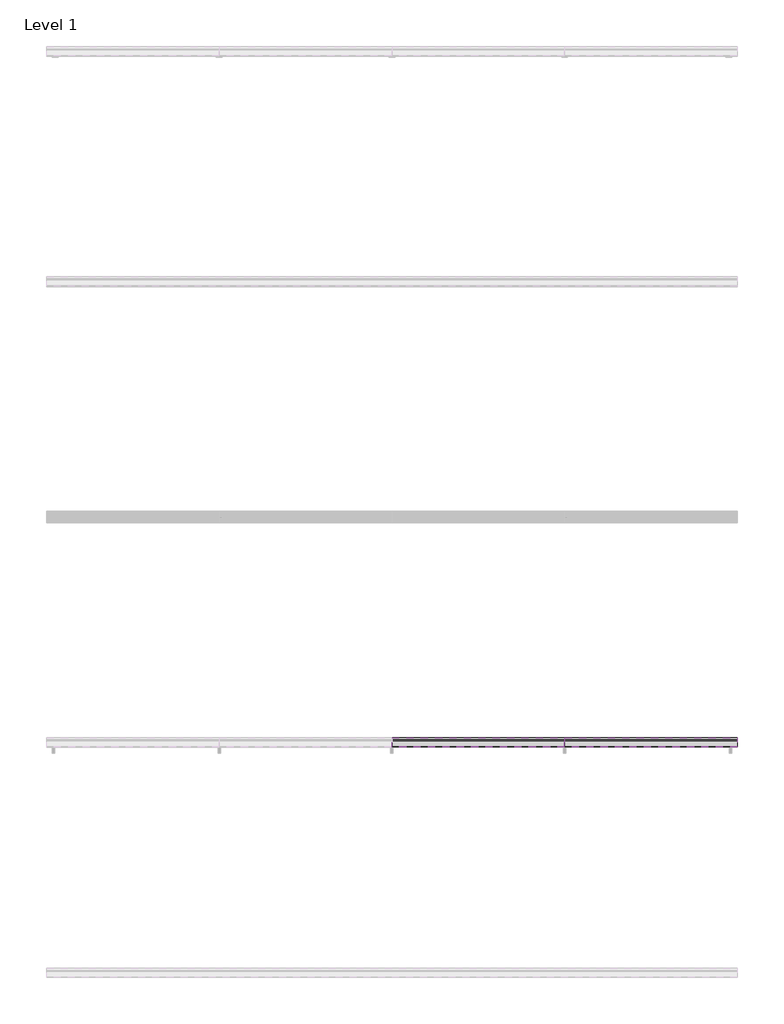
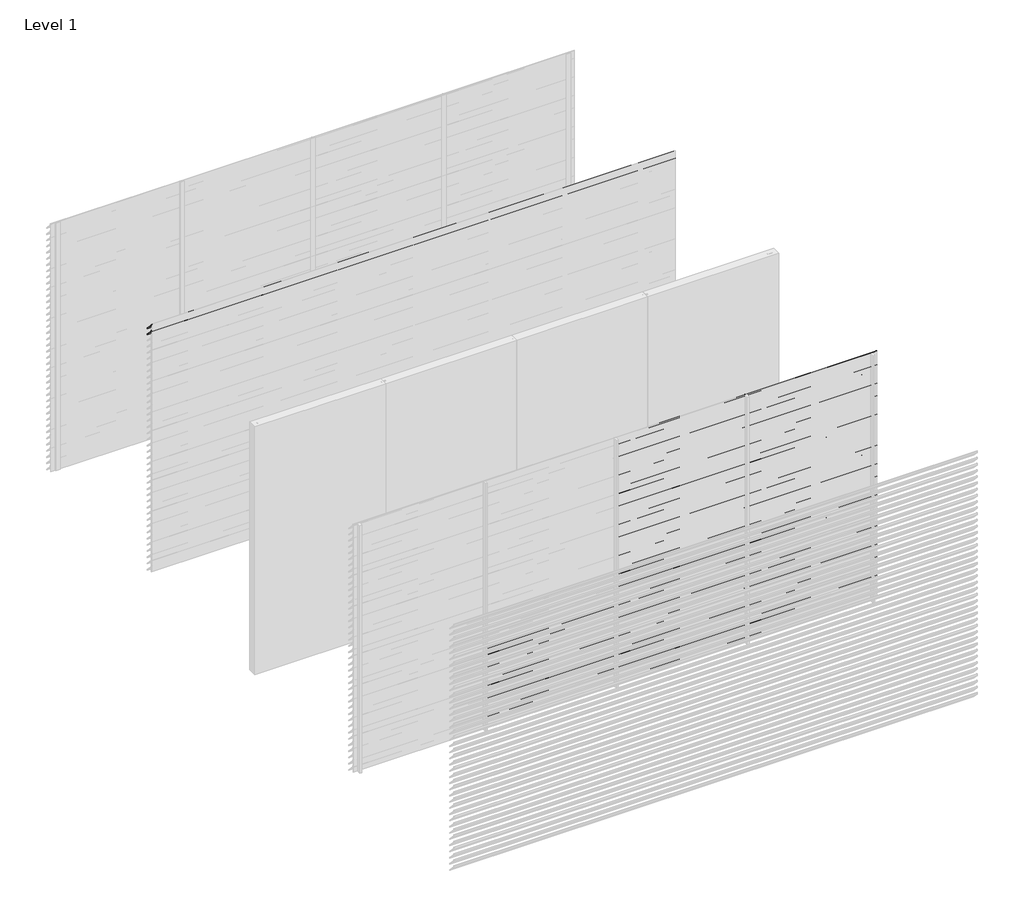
# One storey, part 7 of 9: 95 proxies.
"""IFC4 building model written with IfcOpenShell, lengths in millimetres."""

from ifc_helpers import new_model, si_unit, frame, origin, place, context, project, spatial, polyline, outline, extrude, element, save

model = new_model("IFC4")

# Units and contexts
model_context = context("Model", 3, world=origin())
ifc_project = project(units=[si_unit("LENGTHUNIT", "METRE", prefix="MILLI")], contexts=[model_context])

# Site, building, storey
site = spatial("IfcSite", under=ifc_project)
building = spatial("IfcBuilding", under=site)
storey = spatial("IfcBuildingStorey", under=building, Name="Level 1", Elevation=0.0)

# Proxies
placement = place(None, origin())
element("IfcBuildingElementProxy", 1, Name="Wall Sweeps", at=placement, inside=storey, context=model_context, shape_type="SweptSolid", body=[
    extrude(outline(polyline([(-1995.0, 3000.0), (-1995.0, 2987.7713645), (-1917.0, 2907.0), (-1917.0, 2898.0), (-1997.0, 2980.8424251), (-1997.0, 3000.0), (-1995.0, 3000.0)])), frame((0.0, 0.0, 0.0), z_axis=(1.0, 0.0, 0.0), x_axis=(0.0, 1.0, 0.0)), (0.0, 0.0, 1.0), 6000.0),
])
element("IfcBuildingElementProxy", 2, Name="Wall Sweeps", at=placement, inside=storey, context=model_context, shape_type="SweptSolid", body=[
    extrude(outline(polyline([(-1995.0, 2925.0), (-1995.0, 2912.7713645), (-1917.0, 2832.0), (-1917.0, 2823.0), (-1997.0, 2905.8424251), (-1997.0, 2925.0), (-1995.0, 2925.0)])), frame((0.0, 0.0, 0.0), z_axis=(1.0, 0.0, 0.0), x_axis=(0.0, 1.0, 0.0)), (0.0, 0.0, 1.0), 6000.0),
])
element("IfcBuildingElementProxy", 3, Name="Wall Sweeps", at=placement, inside=storey, context=model_context, shape_type="SweptSolid", body=[
    extrude(outline(polyline([(-5995.0, 975.0), (-5995.0, 962.7713645), (-5917.0, 882.0), (-5917.0, 873.0), (-5997.0, 955.8424251), (-5997.0, 975.0), (-5995.0, 975.0)])), frame((1500.0, 0.0, 0.0), z_axis=(1.0, 0.0, 0.0), x_axis=(0.0, 1.0, 0.0)), (0.0, 0.0, 1.0), 1500.0),
])
element("IfcBuildingElementProxy", 4, Name="Wall Sweeps", at=placement, inside=storey, context=model_context, shape_type="SweptSolid", body=[
    extrude(outline(polyline([(-5995.0, 900.0), (-5995.0, 887.7713645), (-5917.0, 807.0), (-5917.0, 798.0), (-5997.0, 880.8424251), (-5997.0, 900.0), (-5995.0, 900.0)])), frame((1500.0, 0.0, 0.0), z_axis=(1.0, 0.0, 0.0), x_axis=(0.0, 1.0, 0.0)), (0.0, 0.0, 1.0), 1500.0),
])
element("IfcBuildingElementProxy", 5, Name="Wall Sweeps", at=placement, inside=storey, context=model_context, shape_type="SweptSolid", body=[
    extrude(outline(polyline([(-5995.0, 825.0), (-5995.0, 812.7713645), (-5917.0, 732.0), (-5917.0, 723.0), (-5997.0, 805.8424251), (-5997.0, 825.0), (-5995.0, 825.0)])), frame((1500.0, 0.0, 0.0), z_axis=(1.0, 0.0, 0.0), x_axis=(0.0, 1.0, 0.0)), (0.0, 0.0, 1.0), 1500.0),
])
element("IfcBuildingElementProxy", 6, Name="Wall Sweeps", at=placement, inside=storey, context=model_context, shape_type="SweptSolid", body=[
    extrude(outline(polyline([(-5995.0, 750.0), (-5995.0, 737.7713645), (-5917.0, 657.0), (-5917.0, 648.0), (-5997.0, 730.8424251), (-5997.0, 750.0), (-5995.0, 750.0)])), frame((1500.0, 0.0, 0.0), z_axis=(1.0, 0.0, 0.0), x_axis=(0.0, 1.0, 0.0)), (0.0, 0.0, 1.0), 1500.0),
])
element("IfcBuildingElementProxy", 7, Name="Wall Sweeps", at=placement, inside=storey, context=model_context, shape_type="SweptSolid", body=[
    extrude(outline(polyline([(-5995.0, 675.0), (-5995.0, 662.7713645), (-5917.0, 582.0), (-5917.0, 573.0), (-5997.0, 655.8424251), (-5997.0, 675.0), (-5995.0, 675.0)])), frame((1500.0, 0.0, 0.0), z_axis=(1.0, 0.0, 0.0), x_axis=(0.0, 1.0, 0.0)), (0.0, 0.0, 1.0), 1500.0),
])
element("IfcBuildingElementProxy", 8, Name="Wall Sweeps", at=placement, inside=storey, context=model_context, shape_type="SweptSolid", body=[
    extrude(outline(polyline([(-5995.0, 600.0), (-5995.0, 587.7713645), (-5917.0, 507.0), (-5917.0, 498.0), (-5997.0, 580.8424251), (-5997.0, 600.0), (-5995.0, 600.0)])), frame((1500.0, 0.0, 0.0), z_axis=(1.0, 0.0, 0.0), x_axis=(0.0, 1.0, 0.0)), (0.0, 0.0, 1.0), 1500.0),
])
element("IfcBuildingElementProxy", 9, Name="Wall Sweeps", at=placement, inside=storey, context=model_context, shape_type="SweptSolid", body=[
    extrude(outline(polyline([(-5995.0, 525.0), (-5995.0, 512.7713645), (-5917.0, 432.0), (-5917.0, 423.0), (-5997.0, 505.8424251), (-5997.0, 525.0), (-5995.0, 525.0)])), frame((1500.0, 0.0, 0.0), z_axis=(1.0, 0.0, 0.0), x_axis=(0.0, 1.0, 0.0)), (0.0, 0.0, 1.0), 1500.0),
])
element("IfcBuildingElementProxy", 10, Name="Wall Sweeps", at=placement, inside=storey, context=model_context, shape_type="SweptSolid", body=[
    extrude(outline(polyline([(-5995.0, 450.0), (-5995.0, 437.7713645), (-5917.0, 357.0), (-5917.0, 348.0), (-5997.0, 430.8424251), (-5997.0, 450.0), (-5995.0, 450.0)])), frame((1500.0, 0.0, 0.0), z_axis=(1.0, 0.0, 0.0), x_axis=(0.0, 1.0, 0.0)), (0.0, 0.0, 1.0), 1500.0),
])
element("IfcBuildingElementProxy", 11, Name="Wall Sweeps", at=placement, inside=storey, context=model_context, shape_type="SweptSolid", body=[
    extrude(outline(polyline([(-5995.0, 375.0), (-5995.0, 362.7713645), (-5917.0, 282.0), (-5917.0, 273.0), (-5997.0, 355.8424251), (-5997.0, 375.0), (-5995.0, 375.0)])), frame((1500.0, 0.0, 0.0), z_axis=(1.0, 0.0, 0.0), x_axis=(0.0, 1.0, 0.0)), (0.0, 0.0, 1.0), 1500.0),
])
element("IfcBuildingElementProxy", 12, Name="Wall Sweeps", at=placement, inside=storey, context=model_context, shape_type="SweptSolid", body=[
    extrude(outline(polyline([(-5995.0, 300.0), (-5995.0, 287.7713645), (-5917.0, 207.0), (-5917.0, 198.0), (-5997.0, 280.8424251), (-5997.0, 300.0), (-5995.0, 300.0)])), frame((1500.0, 0.0, 0.0), z_axis=(1.0, 0.0, 0.0), x_axis=(0.0, 1.0, 0.0)), (0.0, 0.0, 1.0), 1500.0),
])
element("IfcBuildingElementProxy", 13, Name="Wall Sweeps", at=placement, inside=storey, context=model_context, shape_type="SweptSolid", body=[
    extrude(outline(polyline([(-5995.0, 225.0), (-5995.0, 212.7713645), (-5917.0, 132.0), (-5917.0, 123.0), (-5997.0, 205.8424251), (-5997.0, 225.0), (-5995.0, 225.0)])), frame((1500.0, 0.0, 0.0), z_axis=(1.0, 0.0, 0.0), x_axis=(0.0, 1.0, 0.0)), (0.0, 0.0, 1.0), 1500.0),
])
element("IfcBuildingElementProxy", 14, Name="Wall Sweeps", at=placement, inside=storey, context=model_context, shape_type="SweptSolid", body=[
    extrude(outline(polyline([(-5995.0, 150.0), (-5995.0, 137.7713645), (-5917.0, 57.0), (-5917.0, 48.0), (-5997.0, 130.8424251), (-5997.0, 150.0), (-5995.0, 150.0)])), frame((1500.0, 0.0, 0.0), z_axis=(1.0, 0.0, 0.0), x_axis=(0.0, 1.0, 0.0)), (0.0, 0.0, 1.0), 1500.0),
])
element("IfcBuildingElementProxy", 15, Name="Wall Sweeps", at=placement, inside=storey, context=model_context, shape_type="SweptSolid", body=[
    extrude(outline(polyline([(-5995.0, 75.0), (-5995.0, 62.7713645), (-5917.0, -18.0), (-5917.0, -27.0), (-5997.0, 55.8424251), (-5997.0, 75.0), (-5995.0, 75.0)])), frame((1500.0, 0.0, 0.0), z_axis=(1.0, 0.0, 0.0), x_axis=(0.0, 1.0, 0.0)), (0.0, 0.0, 1.0), 1500.0),
])
element("IfcBuildingElementProxy", 16, Name="Wall Sweeps", at=placement, inside=storey, context=model_context, shape_type="SweptSolid", body=[
    extrude(outline(polyline([(-5995.0, 3000.0), (-5995.0, 2987.7713645), (-5917.0, 2907.0), (-5917.0, 2898.0), (-5997.0, 2980.8424251), (-5997.0, 3000.0), (-5995.0, 3000.0)])), frame((3000.0, 0.0, 0.0), z_axis=(1.0, 0.0, 0.0), x_axis=(0.0, 1.0, 0.0)), (0.0, 0.0, 1.0), 1500.0),
])
element("IfcBuildingElementProxy", 17, Name="Wall Sweeps", at=placement, inside=storey, context=model_context, shape_type="SweptSolid", body=[
    extrude(outline(polyline([(-5995.0, 2925.0), (-5995.0, 2912.7713645), (-5917.0, 2832.0), (-5917.0, 2823.0), (-5997.0, 2905.8424251), (-5997.0, 2925.0), (-5995.0, 2925.0)])), frame((3000.0, 0.0, 0.0), z_axis=(1.0, 0.0, 0.0), x_axis=(0.0, 1.0, 0.0)), (0.0, 0.0, 1.0), 1500.0),
])
element("IfcBuildingElementProxy", 18, Name="Wall Sweeps", at=placement, inside=storey, context=model_context, shape_type="SweptSolid", body=[
    extrude(outline(polyline([(-5995.0, 2850.0), (-5995.0, 2837.7713645), (-5917.0, 2757.0), (-5917.0, 2748.0), (-5997.0, 2830.8424251), (-5997.0, 2850.0), (-5995.0, 2850.0)])), frame((3000.0, 0.0, 0.0), z_axis=(1.0, 0.0, 0.0), x_axis=(0.0, 1.0, 0.0)), (0.0, 0.0, 1.0), 1500.0),
])
element("IfcBuildingElementProxy", 19, Name="Wall Sweeps", at=placement, inside=storey, context=model_context, shape_type="SweptSolid", body=[
    extrude(outline(polyline([(-5995.0, 2775.0), (-5995.0, 2762.7713645), (-5917.0, 2682.0), (-5917.0, 2673.0), (-5997.0, 2755.8424251), (-5997.0, 2775.0), (-5995.0, 2775.0)])), frame((3000.0, 0.0, 0.0), z_axis=(1.0, 0.0, 0.0), x_axis=(0.0, 1.0, 0.0)), (0.0, 0.0, 1.0), 1500.0),
])
element("IfcBuildingElementProxy", 20, Name="Wall Sweeps", at=placement, inside=storey, context=model_context, shape_type="SweptSolid", body=[
    extrude(outline(polyline([(-5995.0, 2700.0), (-5995.0, 2687.7713645), (-5917.0, 2607.0), (-5917.0, 2598.0), (-5997.0, 2680.8424251), (-5997.0, 2700.0), (-5995.0, 2700.0)])), frame((3000.0, 0.0, 0.0), z_axis=(1.0, 0.0, 0.0), x_axis=(0.0, 1.0, 0.0)), (0.0, 0.0, 1.0), 1500.0),
])
element("IfcBuildingElementProxy", 21, Name="Wall Sweeps", at=placement, inside=storey, context=model_context, shape_type="SweptSolid", body=[
    extrude(outline(polyline([(-5995.0, 2625.0), (-5995.0, 2612.7713645), (-5917.0, 2532.0), (-5917.0, 2523.0), (-5997.0, 2605.8424251), (-5997.0, 2625.0), (-5995.0, 2625.0)])), frame((3000.0, 0.0, 0.0), z_axis=(1.0, 0.0, 0.0), x_axis=(0.0, 1.0, 0.0)), (0.0, 0.0, 1.0), 1500.0),
])
element("IfcBuildingElementProxy", 22, Name="Wall Sweeps", at=placement, inside=storey, context=model_context, shape_type="SweptSolid", body=[
    extrude(outline(polyline([(-5995.0, 2550.0), (-5995.0, 2537.7713645), (-5917.0, 2457.0), (-5917.0, 2448.0), (-5997.0, 2530.8424251), (-5997.0, 2550.0), (-5995.0, 2550.0)])), frame((3000.0, 0.0, 0.0), z_axis=(1.0, 0.0, 0.0), x_axis=(0.0, 1.0, 0.0)), (0.0, 0.0, 1.0), 1500.0),
])
element("IfcBuildingElementProxy", 23, Name="Wall Sweeps", at=placement, inside=storey, context=model_context, shape_type="SweptSolid", body=[
    extrude(outline(polyline([(-5995.0, 2475.0), (-5995.0, 2462.7713645), (-5917.0, 2382.0), (-5917.0, 2373.0), (-5997.0, 2455.8424251), (-5997.0, 2475.0), (-5995.0, 2475.0)])), frame((3000.0, 0.0, 0.0), z_axis=(1.0, 0.0, 0.0), x_axis=(0.0, 1.0, 0.0)), (0.0, 0.0, 1.0), 1500.0),
])
element("IfcBuildingElementProxy", 24, Name="Wall Sweeps", at=placement, inside=storey, context=model_context, shape_type="SweptSolid", body=[
    extrude(outline(polyline([(-5995.0, 2400.0), (-5995.0, 2387.7713645), (-5917.0, 2307.0), (-5917.0, 2298.0), (-5997.0, 2380.8424251), (-5997.0, 2400.0), (-5995.0, 2400.0)])), frame((3000.0, 0.0, 0.0), z_axis=(1.0, 0.0, 0.0), x_axis=(0.0, 1.0, 0.0)), (0.0, 0.0, 1.0), 1500.0),
])
element("IfcBuildingElementProxy", 25, Name="Wall Sweeps", at=placement, inside=storey, context=model_context, shape_type="SweptSolid", body=[
    extrude(outline(polyline([(-5995.0, 2325.0), (-5995.0, 2312.7713645), (-5917.0, 2232.0), (-5917.0, 2223.0), (-5997.0, 2305.8424251), (-5997.0, 2325.0), (-5995.0, 2325.0)])), frame((3000.0, 0.0, 0.0), z_axis=(1.0, 0.0, 0.0), x_axis=(0.0, 1.0, 0.0)), (0.0, 0.0, 1.0), 1500.0),
])
element("IfcBuildingElementProxy", 26, Name="Wall Sweeps", at=placement, inside=storey, context=model_context, shape_type="SweptSolid", body=[
    extrude(outline(polyline([(-5995.0, 2250.0), (-5995.0, 2237.7713645), (-5917.0, 2157.0), (-5917.0, 2148.0), (-5997.0, 2230.8424251), (-5997.0, 2250.0), (-5995.0, 2250.0)])), frame((3000.0, 0.0, 0.0), z_axis=(1.0, 0.0, 0.0), x_axis=(0.0, 1.0, 0.0)), (0.0, 0.0, 1.0), 1500.0),
])
element("IfcBuildingElementProxy", 27, Name="Wall Sweeps", at=placement, inside=storey, context=model_context, shape_type="SweptSolid", body=[
    extrude(outline(polyline([(-5995.0, 2175.0), (-5995.0, 2162.7713645), (-5917.0, 2082.0), (-5917.0, 2073.0), (-5997.0, 2155.8424251), (-5997.0, 2175.0), (-5995.0, 2175.0)])), frame((3000.0, 0.0, 0.0), z_axis=(1.0, 0.0, 0.0), x_axis=(0.0, 1.0, 0.0)), (0.0, 0.0, 1.0), 1500.0),
])
element("IfcBuildingElementProxy", 28, Name="Wall Sweeps", at=placement, inside=storey, context=model_context, shape_type="SweptSolid", body=[
    extrude(outline(polyline([(-5995.0, 2100.0), (-5995.0, 2087.7713645), (-5917.0, 2007.0), (-5917.0, 1998.0), (-5997.0, 2080.8424251), (-5997.0, 2100.0), (-5995.0, 2100.0)])), frame((3000.0, 0.0, 0.0), z_axis=(1.0, 0.0, 0.0), x_axis=(0.0, 1.0, 0.0)), (0.0, 0.0, 1.0), 1500.0),
])
element("IfcBuildingElementProxy", 29, Name="Wall Sweeps", at=placement, inside=storey, context=model_context, shape_type="SweptSolid", body=[
    extrude(outline(polyline([(-5995.0, 2025.0), (-5995.0, 2012.7713645), (-5917.0, 1932.0), (-5917.0, 1923.0), (-5997.0, 2005.8424251), (-5997.0, 2025.0), (-5995.0, 2025.0)])), frame((3000.0, 0.0, 0.0), z_axis=(1.0, 0.0, 0.0), x_axis=(0.0, 1.0, 0.0)), (0.0, 0.0, 1.0), 1500.0),
])
element("IfcBuildingElementProxy", 30, Name="Wall Sweeps", at=placement, inside=storey, context=model_context, shape_type="SweptSolid", body=[
    extrude(outline(polyline([(-5995.0, 1950.0), (-5995.0, 1937.7713645), (-5917.0, 1857.0), (-5917.0, 1848.0), (-5997.0, 1930.8424251), (-5997.0, 1950.0), (-5995.0, 1950.0)])), frame((3000.0, 0.0, 0.0), z_axis=(1.0, 0.0, 0.0), x_axis=(0.0, 1.0, 0.0)), (0.0, 0.0, 1.0), 1500.0),
])
element("IfcBuildingElementProxy", 31, Name="Wall Sweeps", at=placement, inside=storey, context=model_context, shape_type="SweptSolid", body=[
    extrude(outline(polyline([(-5995.0, 1875.0), (-5995.0, 1862.7713645), (-5917.0, 1782.0), (-5917.0, 1773.0), (-5997.0, 1855.8424251), (-5997.0, 1875.0), (-5995.0, 1875.0)])), frame((3000.0, 0.0, 0.0), z_axis=(1.0, 0.0, 0.0), x_axis=(0.0, 1.0, 0.0)), (0.0, 0.0, 1.0), 1500.0),
])
element("IfcBuildingElementProxy", 32, Name="Wall Sweeps", at=placement, inside=storey, context=model_context, shape_type="SweptSolid", body=[
    extrude(outline(polyline([(-5995.0, 1800.0), (-5995.0, 1787.7713645), (-5917.0, 1707.0), (-5917.0, 1698.0), (-5997.0, 1780.8424251), (-5997.0, 1800.0), (-5995.0, 1800.0)])), frame((3000.0, 0.0, 0.0), z_axis=(1.0, 0.0, 0.0), x_axis=(0.0, 1.0, 0.0)), (0.0, 0.0, 1.0), 1500.0),
])
element("IfcBuildingElementProxy", 33, Name="Wall Sweeps", at=placement, inside=storey, context=model_context, shape_type="SweptSolid", body=[
    extrude(outline(polyline([(-5995.0, 1725.0), (-5995.0, 1712.7713645), (-5917.0, 1632.0), (-5917.0, 1623.0), (-5997.0, 1705.8424251), (-5997.0, 1725.0), (-5995.0, 1725.0)])), frame((3000.0, 0.0, 0.0), z_axis=(1.0, 0.0, 0.0), x_axis=(0.0, 1.0, 0.0)), (0.0, 0.0, 1.0), 1500.0),
])
element("IfcBuildingElementProxy", 34, Name="Wall Sweeps", at=placement, inside=storey, context=model_context, shape_type="SweptSolid", body=[
    extrude(outline(polyline([(-5995.0, 1650.0), (-5995.0, 1637.7713645), (-5917.0, 1557.0), (-5917.0, 1548.0), (-5997.0, 1630.8424251), (-5997.0, 1650.0), (-5995.0, 1650.0)])), frame((3000.0, 0.0, 0.0), z_axis=(1.0, 0.0, 0.0), x_axis=(0.0, 1.0, 0.0)), (0.0, 0.0, 1.0), 1500.0),
])
element("IfcBuildingElementProxy", 35, Name="Wall Sweeps", at=placement, inside=storey, context=model_context, shape_type="SweptSolid", body=[
    extrude(outline(polyline([(-5995.0, 1575.0), (-5995.0, 1562.7713645), (-5917.0, 1482.0), (-5917.0, 1473.0), (-5997.0, 1555.8424251), (-5997.0, 1575.0), (-5995.0, 1575.0)])), frame((3000.0, 0.0, 0.0), z_axis=(1.0, 0.0, 0.0), x_axis=(0.0, 1.0, 0.0)), (0.0, 0.0, 1.0), 1500.0),
])
element("IfcBuildingElementProxy", 36, Name="Wall Sweeps", at=placement, inside=storey, context=model_context, shape_type="SweptSolid", body=[
    extrude(outline(polyline([(-5995.0, 1500.0), (-5995.0, 1487.7713645), (-5917.0, 1407.0), (-5917.0, 1398.0), (-5997.0, 1480.8424251), (-5997.0, 1500.0), (-5995.0, 1500.0)])), frame((3000.0, 0.0, 0.0), z_axis=(1.0, 0.0, 0.0), x_axis=(0.0, 1.0, 0.0)), (0.0, 0.0, 1.0), 1500.0),
])
element("IfcBuildingElementProxy", 37, Name="Wall Sweeps", at=placement, inside=storey, context=model_context, shape_type="SweptSolid", body=[
    extrude(outline(polyline([(-5995.0, 1425.0), (-5995.0, 1412.7713645), (-5917.0, 1332.0), (-5917.0, 1323.0), (-5997.0, 1405.8424251), (-5997.0, 1425.0), (-5995.0, 1425.0)])), frame((3000.0, 0.0, 0.0), z_axis=(1.0, 0.0, 0.0), x_axis=(0.0, 1.0, 0.0)), (0.0, 0.0, 1.0), 1500.0),
])
element("IfcBuildingElementProxy", 38, Name="Wall Sweeps", at=placement, inside=storey, context=model_context, shape_type="SweptSolid", body=[
    extrude(outline(polyline([(-5995.0, 1350.0), (-5995.0, 1337.7713645), (-5917.0, 1257.0), (-5917.0, 1248.0), (-5997.0, 1330.8424251), (-5997.0, 1350.0), (-5995.0, 1350.0)])), frame((3000.0, 0.0, 0.0), z_axis=(1.0, 0.0, 0.0), x_axis=(0.0, 1.0, 0.0)), (0.0, 0.0, 1.0), 1500.0),
])
element("IfcBuildingElementProxy", 39, Name="Wall Sweeps", at=placement, inside=storey, context=model_context, shape_type="SweptSolid", body=[
    extrude(outline(polyline([(-5995.0, 1275.0), (-5995.0, 1262.7713645), (-5917.0, 1182.0), (-5917.0, 1173.0), (-5997.0, 1255.8424251), (-5997.0, 1275.0), (-5995.0, 1275.0)])), frame((3000.0, 0.0, 0.0), z_axis=(1.0, 0.0, 0.0), x_axis=(0.0, 1.0, 0.0)), (0.0, 0.0, 1.0), 1500.0),
])
element("IfcBuildingElementProxy", 40, Name="Wall Sweeps", at=placement, inside=storey, context=model_context, shape_type="SweptSolid", body=[
    extrude(outline(polyline([(-5995.0, 1200.0), (-5995.0, 1187.7713645), (-5917.0, 1107.0), (-5917.0, 1098.0), (-5997.0, 1180.8424251), (-5997.0, 1200.0), (-5995.0, 1200.0)])), frame((3000.0, 0.0, 0.0), z_axis=(1.0, 0.0, 0.0), x_axis=(0.0, 1.0, 0.0)), (0.0, 0.0, 1.0), 1500.0),
])
element("IfcBuildingElementProxy", 41, Name="Wall Sweeps", at=placement, inside=storey, context=model_context, shape_type="SweptSolid", body=[
    extrude(outline(polyline([(-5995.0, 1125.0), (-5995.0, 1112.7713645), (-5917.0, 1032.0), (-5917.0, 1023.0), (-5997.0, 1105.8424251), (-5997.0, 1125.0), (-5995.0, 1125.0)])), frame((3000.0, 0.0, 0.0), z_axis=(1.0, 0.0, 0.0), x_axis=(0.0, 1.0, 0.0)), (0.0, 0.0, 1.0), 1500.0),
])
element("IfcBuildingElementProxy", 42, Name="Wall Sweeps", at=placement, inside=storey, context=model_context, shape_type="SweptSolid", body=[
    extrude(outline(polyline([(-5995.0, 1050.0), (-5995.0, 1037.7713645), (-5917.0, 957.0), (-5917.0, 948.0), (-5997.0, 1030.8424251), (-5997.0, 1050.0), (-5995.0, 1050.0)])), frame((3000.0, 0.0, 0.0), z_axis=(1.0, 0.0, 0.0), x_axis=(0.0, 1.0, 0.0)), (0.0, 0.0, 1.0), 1500.0),
])
element("IfcBuildingElementProxy", 43, Name="Wall Sweeps", at=placement, inside=storey, context=model_context, shape_type="SweptSolid", body=[
    extrude(outline(polyline([(-5995.0, 975.0), (-5995.0, 962.7713645), (-5917.0, 882.0), (-5917.0, 873.0), (-5997.0, 955.8424251), (-5997.0, 975.0), (-5995.0, 975.0)])), frame((3000.0, 0.0, 0.0), z_axis=(1.0, 0.0, 0.0), x_axis=(0.0, 1.0, 0.0)), (0.0, 0.0, 1.0), 1500.0),
])
element("IfcBuildingElementProxy", 44, Name="Wall Sweeps", at=placement, inside=storey, context=model_context, shape_type="SweptSolid", body=[
    extrude(outline(polyline([(-5995.0, 900.0), (-5995.0, 887.7713645), (-5917.0, 807.0), (-5917.0, 798.0), (-5997.0, 880.8424251), (-5997.0, 900.0), (-5995.0, 900.0)])), frame((3000.0, 0.0, 0.0), z_axis=(1.0, 0.0, 0.0), x_axis=(0.0, 1.0, 0.0)), (0.0, 0.0, 1.0), 1500.0),
])
element("IfcBuildingElementProxy", 45, Name="Wall Sweeps", at=placement, inside=storey, context=model_context, shape_type="SweptSolid", body=[
    extrude(outline(polyline([(-5995.0, 825.0), (-5995.0, 812.7713645), (-5917.0, 732.0), (-5917.0, 723.0), (-5997.0, 805.8424251), (-5997.0, 825.0), (-5995.0, 825.0)])), frame((3000.0, 0.0, 0.0), z_axis=(1.0, 0.0, 0.0), x_axis=(0.0, 1.0, 0.0)), (0.0, 0.0, 1.0), 1500.0),
])
element("IfcBuildingElementProxy", 46, Name="Wall Sweeps", at=placement, inside=storey, context=model_context, shape_type="SweptSolid", body=[
    extrude(outline(polyline([(-5995.0, 750.0), (-5995.0, 737.7713645), (-5917.0, 657.0), (-5917.0, 648.0), (-5997.0, 730.8424251), (-5997.0, 750.0), (-5995.0, 750.0)])), frame((3000.0, 0.0, 0.0), z_axis=(1.0, 0.0, 0.0), x_axis=(0.0, 1.0, 0.0)), (0.0, 0.0, 1.0), 1500.0),
])
element("IfcBuildingElementProxy", 47, Name="Wall Sweeps", at=placement, inside=storey, context=model_context, shape_type="SweptSolid", body=[
    extrude(outline(polyline([(-5995.0, 675.0), (-5995.0, 662.7713645), (-5917.0, 582.0), (-5917.0, 573.0), (-5997.0, 655.8424251), (-5997.0, 675.0), (-5995.0, 675.0)])), frame((3000.0, 0.0, 0.0), z_axis=(1.0, 0.0, 0.0), x_axis=(0.0, 1.0, 0.0)), (0.0, 0.0, 1.0), 1500.0),
])
element("IfcBuildingElementProxy", 48, Name="Wall Sweeps", at=placement, inside=storey, context=model_context, shape_type="SweptSolid", body=[
    extrude(outline(polyline([(-5995.0, 600.0), (-5995.0, 587.7713645), (-5917.0, 507.0), (-5917.0, 498.0), (-5997.0, 580.8424251), (-5997.0, 600.0), (-5995.0, 600.0)])), frame((3000.0, 0.0, 0.0), z_axis=(1.0, 0.0, 0.0), x_axis=(0.0, 1.0, 0.0)), (0.0, 0.0, 1.0), 1500.0),
])
element("IfcBuildingElementProxy", 49, Name="Wall Sweeps", at=placement, inside=storey, context=model_context, shape_type="SweptSolid", body=[
    extrude(outline(polyline([(-5995.0, 525.0), (-5995.0, 512.7713645), (-5917.0, 432.0), (-5917.0, 423.0), (-5997.0, 505.8424251), (-5997.0, 525.0), (-5995.0, 525.0)])), frame((3000.0, 0.0, 0.0), z_axis=(1.0, 0.0, 0.0), x_axis=(0.0, 1.0, 0.0)), (0.0, 0.0, 1.0), 1500.0),
])
element("IfcBuildingElementProxy", 50, Name="Wall Sweeps", at=placement, inside=storey, context=model_context, shape_type="SweptSolid", body=[
    extrude(outline(polyline([(-5995.0, 450.0), (-5995.0, 437.7713645), (-5917.0, 357.0), (-5917.0, 348.0), (-5997.0, 430.8424251), (-5997.0, 450.0), (-5995.0, 450.0)])), frame((3000.0, 0.0, 0.0), z_axis=(1.0, 0.0, 0.0), x_axis=(0.0, 1.0, 0.0)), (0.0, 0.0, 1.0), 1500.0),
])
element("IfcBuildingElementProxy", 51, Name="Wall Sweeps", at=placement, inside=storey, context=model_context, shape_type="SweptSolid", body=[
    extrude(outline(polyline([(-5995.0, 375.0), (-5995.0, 362.7713645), (-5917.0, 282.0), (-5917.0, 273.0), (-5997.0, 355.8424251), (-5997.0, 375.0), (-5995.0, 375.0)])), frame((3000.0, 0.0, 0.0), z_axis=(1.0, 0.0, 0.0), x_axis=(0.0, 1.0, 0.0)), (0.0, 0.0, 1.0), 1500.0),
])
element("IfcBuildingElementProxy", 52, Name="Wall Sweeps", at=placement, inside=storey, context=model_context, shape_type="SweptSolid", body=[
    extrude(outline(polyline([(-5995.0, 300.0), (-5995.0, 287.7713645), (-5917.0, 207.0), (-5917.0, 198.0), (-5997.0, 280.8424251), (-5997.0, 300.0), (-5995.0, 300.0)])), frame((3000.0, 0.0, 0.0), z_axis=(1.0, 0.0, 0.0), x_axis=(0.0, 1.0, 0.0)), (0.0, 0.0, 1.0), 1500.0),
])
element("IfcBuildingElementProxy", 53, Name="Wall Sweeps", at=placement, inside=storey, context=model_context, shape_type="SweptSolid", body=[
    extrude(outline(polyline([(-5995.0, 225.0), (-5995.0, 212.7713645), (-5917.0, 132.0), (-5917.0, 123.0), (-5997.0, 205.8424251), (-5997.0, 225.0), (-5995.0, 225.0)])), frame((3000.0, 0.0, 0.0), z_axis=(1.0, 0.0, 0.0), x_axis=(0.0, 1.0, 0.0)), (0.0, 0.0, 1.0), 1500.0),
])
element("IfcBuildingElementProxy", 54, Name="Wall Sweeps", at=placement, inside=storey, context=model_context, shape_type="SweptSolid", body=[
    extrude(outline(polyline([(-5995.0, 150.0), (-5995.0, 137.7713645), (-5917.0, 57.0), (-5917.0, 48.0), (-5997.0, 130.8424251), (-5997.0, 150.0), (-5995.0, 150.0)])), frame((3000.0, 0.0, 0.0), z_axis=(1.0, 0.0, 0.0), x_axis=(0.0, 1.0, 0.0)), (0.0, 0.0, 1.0), 1500.0),
])
element("IfcBuildingElementProxy", 55, Name="Wall Sweeps", at=placement, inside=storey, context=model_context, shape_type="SweptSolid", body=[
    extrude(outline(polyline([(-5995.0, 75.0), (-5995.0, 62.7713645), (-5917.0, -18.0), (-5917.0, -27.0), (-5997.0, 55.8424251), (-5997.0, 75.0), (-5995.0, 75.0)])), frame((3000.0, 0.0, 0.0), z_axis=(1.0, 0.0, 0.0), x_axis=(0.0, 1.0, 0.0)), (0.0, 0.0, 1.0), 1500.0),
])
element("IfcBuildingElementProxy", 56, Name="Wall Sweeps", at=placement, inside=storey, context=model_context, shape_type="SweptSolid", body=[
    extrude(outline(polyline([(-5995.0, 3000.0), (-5995.0, 2987.7713645), (-5917.0, 2907.0), (-5917.0, 2898.0), (-5997.0, 2980.8424251), (-5997.0, 3000.0), (-5995.0, 3000.0)])), frame((4500.0, 0.0, 0.0), z_axis=(1.0, 0.0, 0.0), x_axis=(0.0, 1.0, 0.0)), (0.0, 0.0, 1.0), 1500.0),
])
element("IfcBuildingElementProxy", 57, Name="Wall Sweeps", at=placement, inside=storey, context=model_context, shape_type="SweptSolid", body=[
    extrude(outline(polyline([(-5995.0, 2925.0), (-5995.0, 2912.7713645), (-5917.0, 2832.0), (-5917.0, 2823.0), (-5997.0, 2905.8424251), (-5997.0, 2925.0), (-5995.0, 2925.0)])), frame((4500.0, 0.0, 0.0), z_axis=(1.0, 0.0, 0.0), x_axis=(0.0, 1.0, 0.0)), (0.0, 0.0, 1.0), 1500.0),
])
element("IfcBuildingElementProxy", 58, Name="Wall Sweeps", at=placement, inside=storey, context=model_context, shape_type="SweptSolid", body=[
    extrude(outline(polyline([(-5995.0, 2850.0), (-5995.0, 2837.7713645), (-5917.0, 2757.0), (-5917.0, 2748.0), (-5997.0, 2830.8424251), (-5997.0, 2850.0), (-5995.0, 2850.0)])), frame((4500.0, 0.0, 0.0), z_axis=(1.0, 0.0, 0.0), x_axis=(0.0, 1.0, 0.0)), (0.0, 0.0, 1.0), 1500.0),
])
element("IfcBuildingElementProxy", 59, Name="Wall Sweeps", at=placement, inside=storey, context=model_context, shape_type="SweptSolid", body=[
    extrude(outline(polyline([(-5995.0, 2775.0), (-5995.0, 2762.7713645), (-5917.0, 2682.0), (-5917.0, 2673.0), (-5997.0, 2755.8424251), (-5997.0, 2775.0), (-5995.0, 2775.0)])), frame((4500.0, 0.0, 0.0), z_axis=(1.0, 0.0, 0.0), x_axis=(0.0, 1.0, 0.0)), (0.0, 0.0, 1.0), 1500.0),
])
element("IfcBuildingElementProxy", 60, Name="Wall Sweeps", at=placement, inside=storey, context=model_context, shape_type="SweptSolid", body=[
    extrude(outline(polyline([(-5995.0, 2700.0), (-5995.0, 2687.7713645), (-5917.0, 2607.0), (-5917.0, 2598.0), (-5997.0, 2680.8424251), (-5997.0, 2700.0), (-5995.0, 2700.0)])), frame((4500.0, 0.0, 0.0), z_axis=(1.0, 0.0, 0.0), x_axis=(0.0, 1.0, 0.0)), (0.0, 0.0, 1.0), 1500.0),
])
element("IfcBuildingElementProxy", 61, Name="Wall Sweeps", at=placement, inside=storey, context=model_context, shape_type="SweptSolid", body=[
    extrude(outline(polyline([(-5995.0, 2625.0), (-5995.0, 2612.7713645), (-5917.0, 2532.0), (-5917.0, 2523.0), (-5997.0, 2605.8424251), (-5997.0, 2625.0), (-5995.0, 2625.0)])), frame((4500.0, 0.0, 0.0), z_axis=(1.0, 0.0, 0.0), x_axis=(0.0, 1.0, 0.0)), (0.0, 0.0, 1.0), 1500.0),
])
element("IfcBuildingElementProxy", 62, Name="Wall Sweeps", at=placement, inside=storey, context=model_context, shape_type="SweptSolid", body=[
    extrude(outline(polyline([(-5995.0, 2550.0), (-5995.0, 2537.7713645), (-5917.0, 2457.0), (-5917.0, 2448.0), (-5997.0, 2530.8424251), (-5997.0, 2550.0), (-5995.0, 2550.0)])), frame((4500.0, 0.0, 0.0), z_axis=(1.0, 0.0, 0.0), x_axis=(0.0, 1.0, 0.0)), (0.0, 0.0, 1.0), 1500.0),
])
element("IfcBuildingElementProxy", 63, Name="Wall Sweeps", at=placement, inside=storey, context=model_context, shape_type="SweptSolid", body=[
    extrude(outline(polyline([(-5995.0, 2475.0), (-5995.0, 2462.7713645), (-5917.0, 2382.0), (-5917.0, 2373.0), (-5997.0, 2455.8424251), (-5997.0, 2475.0), (-5995.0, 2475.0)])), frame((4500.0, 0.0, 0.0), z_axis=(1.0, 0.0, 0.0), x_axis=(0.0, 1.0, 0.0)), (0.0, 0.0, 1.0), 1500.0),
])
element("IfcBuildingElementProxy", 64, Name="Wall Sweeps", at=placement, inside=storey, context=model_context, shape_type="SweptSolid", body=[
    extrude(outline(polyline([(-5995.0, 2400.0), (-5995.0, 2387.7713645), (-5917.0, 2307.0), (-5917.0, 2298.0), (-5997.0, 2380.8424251), (-5997.0, 2400.0), (-5995.0, 2400.0)])), frame((4500.0, 0.0, 0.0), z_axis=(1.0, 0.0, 0.0), x_axis=(0.0, 1.0, 0.0)), (0.0, 0.0, 1.0), 1500.0),
])
element("IfcBuildingElementProxy", 65, Name="Wall Sweeps", at=placement, inside=storey, context=model_context, shape_type="SweptSolid", body=[
    extrude(outline(polyline([(-5995.0, 2325.0), (-5995.0, 2312.7713645), (-5917.0, 2232.0), (-5917.0, 2223.0), (-5997.0, 2305.8424251), (-5997.0, 2325.0), (-5995.0, 2325.0)])), frame((4500.0, 0.0, 0.0), z_axis=(1.0, 0.0, 0.0), x_axis=(0.0, 1.0, 0.0)), (0.0, 0.0, 1.0), 1500.0),
])
element("IfcBuildingElementProxy", 66, Name="Wall Sweeps", at=placement, inside=storey, context=model_context, shape_type="SweptSolid", body=[
    extrude(outline(polyline([(-5995.0, 2250.0), (-5995.0, 2237.7713645), (-5917.0, 2157.0), (-5917.0, 2148.0), (-5997.0, 2230.8424251), (-5997.0, 2250.0), (-5995.0, 2250.0)])), frame((4500.0, 0.0, 0.0), z_axis=(1.0, 0.0, 0.0), x_axis=(0.0, 1.0, 0.0)), (0.0, 0.0, 1.0), 1500.0),
])
element("IfcBuildingElementProxy", 67, Name="Wall Sweeps", at=placement, inside=storey, context=model_context, shape_type="SweptSolid", body=[
    extrude(outline(polyline([(-5995.0, 2175.0), (-5995.0, 2162.7713645), (-5917.0, 2082.0), (-5917.0, 2073.0), (-5997.0, 2155.8424251), (-5997.0, 2175.0), (-5995.0, 2175.0)])), frame((4500.0, 0.0, 0.0), z_axis=(1.0, 0.0, 0.0), x_axis=(0.0, 1.0, 0.0)), (0.0, 0.0, 1.0), 1500.0),
])
element("IfcBuildingElementProxy", 68, Name="Wall Sweeps", at=placement, inside=storey, context=model_context, shape_type="SweptSolid", body=[
    extrude(outline(polyline([(-5995.0, 2100.0), (-5995.0, 2087.7713645), (-5917.0, 2007.0), (-5917.0, 1998.0), (-5997.0, 2080.8424251), (-5997.0, 2100.0), (-5995.0, 2100.0)])), frame((4500.0, 0.0, 0.0), z_axis=(1.0, 0.0, 0.0), x_axis=(0.0, 1.0, 0.0)), (0.0, 0.0, 1.0), 1500.0),
])
element("IfcBuildingElementProxy", 69, Name="Wall Sweeps", at=placement, inside=storey, context=model_context, shape_type="SweptSolid", body=[
    extrude(outline(polyline([(-5995.0, 2025.0), (-5995.0, 2012.7713645), (-5917.0, 1932.0), (-5917.0, 1923.0), (-5997.0, 2005.8424251), (-5997.0, 2025.0), (-5995.0, 2025.0)])), frame((4500.0, 0.0, 0.0), z_axis=(1.0, 0.0, 0.0), x_axis=(0.0, 1.0, 0.0)), (0.0, 0.0, 1.0), 1500.0),
])
element("IfcBuildingElementProxy", 70, Name="Wall Sweeps", at=placement, inside=storey, context=model_context, shape_type="SweptSolid", body=[
    extrude(outline(polyline([(-5995.0, 1950.0), (-5995.0, 1937.7713645), (-5917.0, 1857.0), (-5917.0, 1848.0), (-5997.0, 1930.8424251), (-5997.0, 1950.0), (-5995.0, 1950.0)])), frame((4500.0, 0.0, 0.0), z_axis=(1.0, 0.0, 0.0), x_axis=(0.0, 1.0, 0.0)), (0.0, 0.0, 1.0), 1500.0),
])
element("IfcBuildingElementProxy", 71, Name="Wall Sweeps", at=placement, inside=storey, context=model_context, shape_type="SweptSolid", body=[
    extrude(outline(polyline([(-5995.0, 1875.0), (-5995.0, 1862.7713645), (-5917.0, 1782.0), (-5917.0, 1773.0), (-5997.0, 1855.8424251), (-5997.0, 1875.0), (-5995.0, 1875.0)])), frame((4500.0, 0.0, 0.0), z_axis=(1.0, 0.0, 0.0), x_axis=(0.0, 1.0, 0.0)), (0.0, 0.0, 1.0), 1500.0),
])
element("IfcBuildingElementProxy", 72, Name="Wall Sweeps", at=placement, inside=storey, context=model_context, shape_type="SweptSolid", body=[
    extrude(outline(polyline([(-5995.0, 1800.0), (-5995.0, 1787.7713645), (-5917.0, 1707.0), (-5917.0, 1698.0), (-5997.0, 1780.8424251), (-5997.0, 1800.0), (-5995.0, 1800.0)])), frame((4500.0, 0.0, 0.0), z_axis=(1.0, 0.0, 0.0), x_axis=(0.0, 1.0, 0.0)), (0.0, 0.0, 1.0), 1500.0),
])
element("IfcBuildingElementProxy", 73, Name="Wall Sweeps", at=placement, inside=storey, context=model_context, shape_type="SweptSolid", body=[
    extrude(outline(polyline([(-5995.0, 1725.0), (-5995.0, 1712.7713645), (-5917.0, 1632.0), (-5917.0, 1623.0), (-5997.0, 1705.8424251), (-5997.0, 1725.0), (-5995.0, 1725.0)])), frame((4500.0, 0.0, 0.0), z_axis=(1.0, 0.0, 0.0), x_axis=(0.0, 1.0, 0.0)), (0.0, 0.0, 1.0), 1500.0),
])
element("IfcBuildingElementProxy", 74, Name="Wall Sweeps", at=placement, inside=storey, context=model_context, shape_type="SweptSolid", body=[
    extrude(outline(polyline([(-5995.0, 1650.0), (-5995.0, 1637.7713645), (-5917.0, 1557.0), (-5917.0, 1548.0), (-5997.0, 1630.8424251), (-5997.0, 1650.0), (-5995.0, 1650.0)])), frame((4500.0, 0.0, 0.0), z_axis=(1.0, 0.0, 0.0), x_axis=(0.0, 1.0, 0.0)), (0.0, 0.0, 1.0), 1500.0),
])
element("IfcBuildingElementProxy", 75, Name="Wall Sweeps", at=placement, inside=storey, context=model_context, shape_type="SweptSolid", body=[
    extrude(outline(polyline([(-5995.0, 1575.0), (-5995.0, 1562.7713645), (-5917.0, 1482.0), (-5917.0, 1473.0), (-5997.0, 1555.8424251), (-5997.0, 1575.0), (-5995.0, 1575.0)])), frame((4500.0, 0.0, 0.0), z_axis=(1.0, 0.0, 0.0), x_axis=(0.0, 1.0, 0.0)), (0.0, 0.0, 1.0), 1500.0),
])
element("IfcBuildingElementProxy", 76, Name="Wall Sweeps", at=placement, inside=storey, context=model_context, shape_type="SweptSolid", body=[
    extrude(outline(polyline([(-5995.0, 1500.0), (-5995.0, 1487.7713645), (-5917.0, 1407.0), (-5917.0, 1398.0), (-5997.0, 1480.8424251), (-5997.0, 1500.0), (-5995.0, 1500.0)])), frame((4500.0, 0.0, 0.0), z_axis=(1.0, 0.0, 0.0), x_axis=(0.0, 1.0, 0.0)), (0.0, 0.0, 1.0), 1500.0),
])
element("IfcBuildingElementProxy", 77, Name="Wall Sweeps", at=placement, inside=storey, context=model_context, shape_type="SweptSolid", body=[
    extrude(outline(polyline([(-5995.0, 1425.0), (-5995.0, 1412.7713645), (-5917.0, 1332.0), (-5917.0, 1323.0), (-5997.0, 1405.8424251), (-5997.0, 1425.0), (-5995.0, 1425.0)])), frame((4500.0, 0.0, 0.0), z_axis=(1.0, 0.0, 0.0), x_axis=(0.0, 1.0, 0.0)), (0.0, 0.0, 1.0), 1500.0),
])
element("IfcBuildingElementProxy", 78, Name="Wall Sweeps", at=placement, inside=storey, context=model_context, shape_type="SweptSolid", body=[
    extrude(outline(polyline([(-5995.0, 1350.0), (-5995.0, 1337.7713645), (-5917.0, 1257.0), (-5917.0, 1248.0), (-5997.0, 1330.8424251), (-5997.0, 1350.0), (-5995.0, 1350.0)])), frame((4500.0, 0.0, 0.0), z_axis=(1.0, 0.0, 0.0), x_axis=(0.0, 1.0, 0.0)), (0.0, 0.0, 1.0), 1500.0),
])
element("IfcBuildingElementProxy", 79, Name="Wall Sweeps", at=placement, inside=storey, context=model_context, shape_type="SweptSolid", body=[
    extrude(outline(polyline([(-5995.0, 1275.0), (-5995.0, 1262.7713645), (-5917.0, 1182.0), (-5917.0, 1173.0), (-5997.0, 1255.8424251), (-5997.0, 1275.0), (-5995.0, 1275.0)])), frame((4500.0, 0.0, 0.0), z_axis=(1.0, 0.0, 0.0), x_axis=(0.0, 1.0, 0.0)), (0.0, 0.0, 1.0), 1500.0),
])
element("IfcBuildingElementProxy", 80, Name="Wall Sweeps", at=placement, inside=storey, context=model_context, shape_type="SweptSolid", body=[
    extrude(outline(polyline([(-5995.0, 1200.0), (-5995.0, 1187.7713645), (-5917.0, 1107.0), (-5917.0, 1098.0), (-5997.0, 1180.8424251), (-5997.0, 1200.0), (-5995.0, 1200.0)])), frame((4500.0, 0.0, 0.0), z_axis=(1.0, 0.0, 0.0), x_axis=(0.0, 1.0, 0.0)), (0.0, 0.0, 1.0), 1500.0),
])
element("IfcBuildingElementProxy", 81, Name="Wall Sweeps", at=placement, inside=storey, context=model_context, shape_type="SweptSolid", body=[
    extrude(outline(polyline([(-5995.0, 1125.0), (-5995.0, 1112.7713645), (-5917.0, 1032.0), (-5917.0, 1023.0), (-5997.0, 1105.8424251), (-5997.0, 1125.0), (-5995.0, 1125.0)])), frame((4500.0, 0.0, 0.0), z_axis=(1.0, 0.0, 0.0), x_axis=(0.0, 1.0, 0.0)), (0.0, 0.0, 1.0), 1500.0),
])
element("IfcBuildingElementProxy", 82, Name="Wall Sweeps", at=placement, inside=storey, context=model_context, shape_type="SweptSolid", body=[
    extrude(outline(polyline([(-5995.0, 1050.0), (-5995.0, 1037.7713645), (-5917.0, 957.0), (-5917.0, 948.0), (-5997.0, 1030.8424251), (-5997.0, 1050.0), (-5995.0, 1050.0)])), frame((4500.0, 0.0, 0.0), z_axis=(1.0, 0.0, 0.0), x_axis=(0.0, 1.0, 0.0)), (0.0, 0.0, 1.0), 1500.0),
])
element("IfcBuildingElementProxy", 83, Name="Wall Sweeps", at=placement, inside=storey, context=model_context, shape_type="SweptSolid", body=[
    extrude(outline(polyline([(-5995.0, 975.0), (-5995.0, 962.7713645), (-5917.0, 882.0), (-5917.0, 873.0), (-5997.0, 955.8424251), (-5997.0, 975.0), (-5995.0, 975.0)])), frame((4500.0, 0.0, 0.0), z_axis=(1.0, 0.0, 0.0), x_axis=(0.0, 1.0, 0.0)), (0.0, 0.0, 1.0), 1500.0),
])
element("IfcBuildingElementProxy", 84, Name="Wall Sweeps", at=placement, inside=storey, context=model_context, shape_type="SweptSolid", body=[
    extrude(outline(polyline([(-5995.0, 900.0), (-5995.0, 887.7713645), (-5917.0, 807.0), (-5917.0, 798.0), (-5997.0, 880.8424251), (-5997.0, 900.0), (-5995.0, 900.0)])), frame((4500.0, 0.0, 0.0), z_axis=(1.0, 0.0, 0.0), x_axis=(0.0, 1.0, 0.0)), (0.0, 0.0, 1.0), 1500.0),
])
element("IfcBuildingElementProxy", 85, Name="Wall Sweeps", at=placement, inside=storey, context=model_context, shape_type="SweptSolid", body=[
    extrude(outline(polyline([(-5995.0, 825.0), (-5995.0, 812.7713645), (-5917.0, 732.0), (-5917.0, 723.0), (-5997.0, 805.8424251), (-5997.0, 825.0), (-5995.0, 825.0)])), frame((4500.0, 0.0, 0.0), z_axis=(1.0, 0.0, 0.0), x_axis=(0.0, 1.0, 0.0)), (0.0, 0.0, 1.0), 1500.0),
])
element("IfcBuildingElementProxy", 86, Name="Wall Sweeps", at=placement, inside=storey, context=model_context, shape_type="SweptSolid", body=[
    extrude(outline(polyline([(-5995.0, 750.0), (-5995.0, 737.7713645), (-5917.0, 657.0), (-5917.0, 648.0), (-5997.0, 730.8424251), (-5997.0, 750.0), (-5995.0, 750.0)])), frame((4500.0, 0.0, 0.0), z_axis=(1.0, 0.0, 0.0), x_axis=(0.0, 1.0, 0.0)), (0.0, 0.0, 1.0), 1500.0),
])
element("IfcBuildingElementProxy", 87, Name="Wall Sweeps", at=placement, inside=storey, context=model_context, shape_type="SweptSolid", body=[
    extrude(outline(polyline([(-5995.0, 675.0), (-5995.0, 662.7713645), (-5917.0, 582.0), (-5917.0, 573.0), (-5997.0, 655.8424251), (-5997.0, 675.0), (-5995.0, 675.0)])), frame((4500.0, 0.0, 0.0), z_axis=(1.0, 0.0, 0.0), x_axis=(0.0, 1.0, 0.0)), (0.0, 0.0, 1.0), 1500.0),
])
element("IfcBuildingElementProxy", 88, Name="Wall Sweeps", at=placement, inside=storey, context=model_context, shape_type="SweptSolid", body=[
    extrude(outline(polyline([(-5995.0, 600.0), (-5995.0, 587.7713645), (-5917.0, 507.0), (-5917.0, 498.0), (-5997.0, 580.8424251), (-5997.0, 600.0), (-5995.0, 600.0)])), frame((4500.0, 0.0, 0.0), z_axis=(1.0, 0.0, 0.0), x_axis=(0.0, 1.0, 0.0)), (0.0, 0.0, 1.0), 1500.0),
])
element("IfcBuildingElementProxy", 89, Name="Wall Sweeps", at=placement, inside=storey, context=model_context, shape_type="SweptSolid", body=[
    extrude(outline(polyline([(-5995.0, 525.0), (-5995.0, 512.7713645), (-5917.0, 432.0), (-5917.0, 423.0), (-5997.0, 505.8424251), (-5997.0, 525.0), (-5995.0, 525.0)])), frame((4500.0, 0.0, 0.0), z_axis=(1.0, 0.0, 0.0), x_axis=(0.0, 1.0, 0.0)), (0.0, 0.0, 1.0), 1500.0),
])
element("IfcBuildingElementProxy", 90, Name="Wall Sweeps", at=placement, inside=storey, context=model_context, shape_type="SweptSolid", body=[
    extrude(outline(polyline([(-5995.0, 450.0), (-5995.0, 437.7713645), (-5917.0, 357.0), (-5917.0, 348.0), (-5997.0, 430.8424251), (-5997.0, 450.0), (-5995.0, 450.0)])), frame((4500.0, 0.0, 0.0), z_axis=(1.0, 0.0, 0.0), x_axis=(0.0, 1.0, 0.0)), (0.0, 0.0, 1.0), 1500.0),
])
element("IfcBuildingElementProxy", 91, Name="Wall Sweeps", at=placement, inside=storey, context=model_context, shape_type="SweptSolid", body=[
    extrude(outline(polyline([(-5995.0, 375.0), (-5995.0, 362.7713645), (-5917.0, 282.0), (-5917.0, 273.0), (-5997.0, 355.8424251), (-5997.0, 375.0), (-5995.0, 375.0)])), frame((4500.0, 0.0, 0.0), z_axis=(1.0, 0.0, 0.0), x_axis=(0.0, 1.0, 0.0)), (0.0, 0.0, 1.0), 1500.0),
])
element("IfcBuildingElementProxy", 92, Name="Wall Sweeps", at=placement, inside=storey, context=model_context, shape_type="SweptSolid", body=[
    extrude(outline(polyline([(-5995.0, 300.0), (-5995.0, 287.7713645), (-5917.0, 207.0), (-5917.0, 198.0), (-5997.0, 280.8424251), (-5997.0, 300.0), (-5995.0, 300.0)])), frame((4500.0, 0.0, 0.0), z_axis=(1.0, 0.0, 0.0), x_axis=(0.0, 1.0, 0.0)), (0.0, 0.0, 1.0), 1500.0),
])
element("IfcBuildingElementProxy", 93, Name="Wall Sweeps", at=placement, inside=storey, context=model_context, shape_type="SweptSolid", body=[
    extrude(outline(polyline([(-5995.0, 225.0), (-5995.0, 212.7713645), (-5917.0, 132.0), (-5917.0, 123.0), (-5997.0, 205.8424251), (-5997.0, 225.0), (-5995.0, 225.0)])), frame((4500.0, 0.0, 0.0), z_axis=(1.0, 0.0, 0.0), x_axis=(0.0, 1.0, 0.0)), (0.0, 0.0, 1.0), 1500.0),
])
element("IfcBuildingElementProxy", 94, Name="Wall Sweeps", at=placement, inside=storey, context=model_context, shape_type="SweptSolid", body=[
    extrude(outline(polyline([(-5995.0, 150.0), (-5995.0, 137.7713645), (-5917.0, 57.0), (-5917.0, 48.0), (-5997.0, 130.8424251), (-5997.0, 150.0), (-5995.0, 150.0)])), frame((4500.0, 0.0, 0.0), z_axis=(1.0, 0.0, 0.0), x_axis=(0.0, 1.0, 0.0)), (0.0, 0.0, 1.0), 1500.0),
])
element("IfcBuildingElementProxy", 95, Name="Wall Sweeps", at=placement, inside=storey, context=model_context, shape_type="SweptSolid", body=[
    extrude(outline(polyline([(-5995.0, 75.0), (-5995.0, 62.7713645), (-5917.0, -18.0), (-5917.0, -27.0), (-5997.0, 55.8424251), (-5997.0, 75.0), (-5995.0, 75.0)])), frame((4500.0, 0.0, 0.0), z_axis=(1.0, 0.0, 0.0), x_axis=(0.0, 1.0, 0.0)), (0.0, 0.0, 1.0), 1500.0),
])

save(model, "model.ifc")
